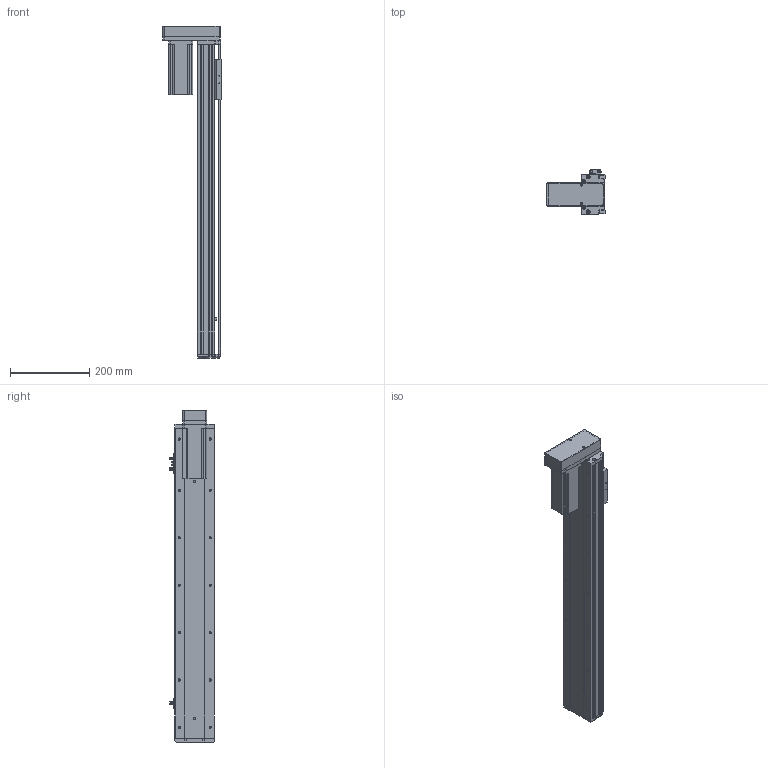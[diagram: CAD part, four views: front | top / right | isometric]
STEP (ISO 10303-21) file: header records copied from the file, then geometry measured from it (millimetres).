
FILE_DESCRIPTION (( 'STEP AP214' ), '1' );
FILE_NAME ('KSD100S-S600-MD-CM.STEP', '2019-08-30T03:29:48', ( '微软用户' ), ( '微软中国' ), 'SwSTEP 2.0', 'SolidWorks 2014', '' );
FILE_SCHEMA (( 'AUTOMOTIVE_DESIGN' ));
Length unit declared in the file: millimetre
Products named in the file (11): KSD100S-S600-MD-CM; 悵誘欶奻狟殏; 100宽马达安装板连板上下折丝杆同步带; 台达ECMA－C20604AS伺服电机; 覜茼え100遵圉猾敕; U倰嫖萇EEㄜSX672; 100宽防尘板丝杆600行程; 100遵鎮湛假蚾啣; 100宽滚珠螺姆安装板半封闭; 100遵傷啣; 100宽底板半封闭丝杆600行程
Assembly tree (12 placements, depth 2):
  KSD100S-S600-MD-CM
    100宽底板半封闭丝杆600行程
    100遵傷啣
    100宽滚珠螺姆安装板半封闭
    100遵鎮湛假蚾啣
    100宽防尘板丝杆600行程
    U倰嫖萇EEㄜSX672  x3
    覜茼え100遵圉猾敕
    台达ECMA－C20604AS伺服电机
    100宽马达安装板连板上下折丝杆同步带
    悵誘欶奻狟殏
Bounding box: 147 x 113.7 x 840.5 mm (x, y, z)
Volume: 2149529.9 mm3; surface area: 679624.2 mm2
Topology: 13 solids, 13 shells, 1249 faces, 3508 edges, 2221 vertices
Faces by surface type: cylinder 610, plane 504, cone 135
Entity records: 44365 total; most frequent: CARTESIAN_POINT 8203, DIRECTION 5903, ORIENTED_EDGE 5652, EDGE_CURVE 2826, AXIS2_PLACEMENT_3D 2149, VERTEX_POINT 1845, LINE 1605, VECTOR 1605
